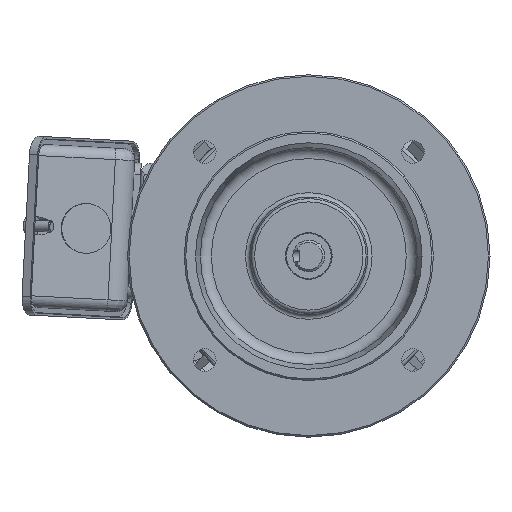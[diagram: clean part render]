
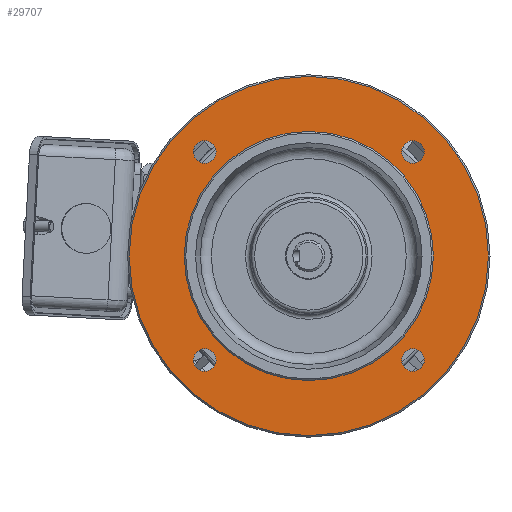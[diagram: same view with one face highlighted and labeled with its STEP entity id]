
A CAD part, front view. The second image highlights one B-rep face of the part: STEP entity #29707.
In plain terms, the highlighted planar face has unit normal (0, -1, 0).
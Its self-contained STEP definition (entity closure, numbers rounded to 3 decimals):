
#1978=CIRCLE('',#31755,55.);
#1979=CIRCLE('',#31757,79.3);
#1980=CIRCLE('',#31758,5.);
#1981=CIRCLE('',#31759,5.);
#1982=CIRCLE('',#31760,5.);
#1983=CIRCLE('',#31761,5.);
#4530=ORIENTED_EDGE('',*,*,#11872,.T.);
#4531=ORIENTED_EDGE('',*,*,#11873,.F.);
#4532=ORIENTED_EDGE('',*,*,#11874,.F.);
#4533=ORIENTED_EDGE('',*,*,#11875,.F.);
#4534=ORIENTED_EDGE('',*,*,#11876,.F.);
#4535=ORIENTED_EDGE('',*,*,#11871,.F.);
#11871=EDGE_CURVE('',#15661,#15661,#1978,.T.);
#11872=EDGE_CURVE('',#15662,#15662,#1979,.T.);
#11873=EDGE_CURVE('',#15663,#15663,#1980,.T.);
#11874=EDGE_CURVE('',#15664,#15664,#1981,.T.);
#11875=EDGE_CURVE('',#15665,#15665,#1982,.T.);
#11876=EDGE_CURVE('',#15666,#15666,#1983,.T.);
#15661=VERTEX_POINT('',#46087);
#15662=VERTEX_POINT('',#46090);
#15663=VERTEX_POINT('',#46092);
#15664=VERTEX_POINT('',#46094);
#15665=VERTEX_POINT('',#46096);
#15666=VERTEX_POINT('',#46098);
#21825=EDGE_LOOP('',(#4530));
#21826=EDGE_LOOP('',(#4531));
#21827=EDGE_LOOP('',(#4532));
#21828=EDGE_LOOP('',(#4533));
#21829=EDGE_LOOP('',(#4534));
#21830=EDGE_LOOP('',(#4535));
#23896=FACE_BOUND('',#21825,.T.);
#23897=FACE_BOUND('',#21826,.T.);
#23898=FACE_BOUND('',#21827,.T.);
#23899=FACE_BOUND('',#21828,.T.);
#23900=FACE_BOUND('',#21829,.T.);
#23901=FACE_BOUND('',#21830,.T.);
#25736=PLANE('',#31756);
#29707=ADVANCED_FACE('',(#23896,#23897,#23898,#23899,#23900,#23901),#25736,
 .T.);
#31755=AXIS2_PLACEMENT_3D('',#46086,#35727,#35728);
#31756=AXIS2_PLACEMENT_3D('',#46088,#35729,#35730);
#31757=AXIS2_PLACEMENT_3D('',#46089,#35731,#35732);
#31758=AXIS2_PLACEMENT_3D('',#46091,#35733,#35734);
#31759=AXIS2_PLACEMENT_3D('',#46093,#35735,#35736);
#31760=AXIS2_PLACEMENT_3D('',#46095,#35737,#35738);
#31761=AXIS2_PLACEMENT_3D('',#46097,#35739,#35740);
#35727=DIRECTION('',(0.,-1.,0.));
#35728=DIRECTION('',(1.,0.,0.));
#35729=DIRECTION('',(0.,-1.,0.));
#35730=DIRECTION('',(1.,0.,0.));
#35731=DIRECTION('',(0.,-1.,0.));
#35732=DIRECTION('',(1.,0.,0.));
#35733=DIRECTION('',(0.,-1.,0.));
#35734=DIRECTION('',(0.,0.,1.));
#35735=DIRECTION('',(0.,-1.,0.));
#35736=DIRECTION('',(-1.,0.,0.));
#35737=DIRECTION('',(0.,-1.,0.));
#35738=DIRECTION('',(0.,0.,-1.));
#35739=DIRECTION('',(0.,-1.,0.));
#35740=DIRECTION('',(1.,0.,0.));
#46086=CARTESIAN_POINT('',(0.,3.5,0.));
#46087=CARTESIAN_POINT('',(55.,3.5,0.));
#46088=CARTESIAN_POINT('',(0.,3.5,55.));
#46089=CARTESIAN_POINT('',(0.,3.5,0.));
#46090=CARTESIAN_POINT('',(79.3,3.5,0.));
#46091=CARTESIAN_POINT('',(-45.962,3.5,-45.962));
#46092=CARTESIAN_POINT('',(-45.962,3.5,-40.962));
#46093=CARTESIAN_POINT('',(45.962,3.5,-45.962));
#46094=CARTESIAN_POINT('',(40.962,3.5,-45.962));
#46095=CARTESIAN_POINT('',(45.962,3.5,45.962));
#46096=CARTESIAN_POINT('',(45.962,3.5,40.962));
#46097=CARTESIAN_POINT('',(-45.962,3.5,45.962));
#46098=CARTESIAN_POINT('',(-40.962,3.5,45.962));
